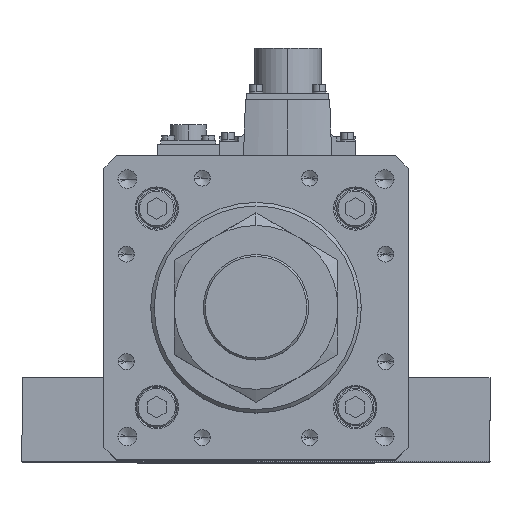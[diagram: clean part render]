
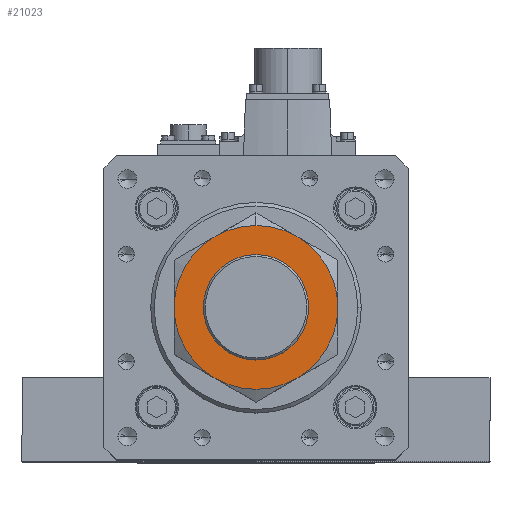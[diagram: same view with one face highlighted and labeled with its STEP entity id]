
A CAD part, top view. The second image highlights one B-rep face of the part: STEP entity #21023.
In plain terms, the highlighted planar face has unit normal (0, 0, 1).
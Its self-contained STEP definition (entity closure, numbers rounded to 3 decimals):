
#189 = CIRCLE ( 'NONE', #11442, 35. ) ;
#321 = AXIS2_PLACEMENT_3D ( 'NONE', #4866, #17471, #26781 ) ;
#404 = VERTEX_POINT ( 'NONE', #6828 ) ;
#786 = CARTESIAN_POINT ( 'NONE',  ( -35., 0., 27. ) ) ;
#865 = CARTESIAN_POINT ( 'NONE',  ( 0., 35., 27. ) ) ;
#1171 = CARTESIAN_POINT ( 'NONE',  ( 0., 0., 27. ) ) ;
#1385 = EDGE_CURVE ( 'NONE', #30541, #404, #1743, .T. ) ;
#1743 = CIRCLE ( 'NONE', #16719, 35. ) ;
#1779 = CIRCLE ( 'NONE', #12266, 35. ) ;
#2656 = PLANE ( 'NONE',  #20057 ) ;
#2766 = VERTEX_POINT ( 'NONE', #22512 ) ;
#2946 = DIRECTION ( 'NONE',  ( 0., 1., 0. ) ) ;
#3335 = CARTESIAN_POINT ( 'NONE',  ( -17.5, -30.311, 27. ) ) ;
#3467 = DIRECTION ( 'NONE',  ( 0., 0., -1. ) ) ;
#3871 = CARTESIAN_POINT ( 'NONE',  ( 0., 0., 27. ) ) ;
#3993 = FACE_OUTER_BOUND ( 'NONE', #10906, .T. ) ;
#4059 = EDGE_CURVE ( 'NONE', #9584, #8830, #26942, .T. ) ;
#4866 = CARTESIAN_POINT ( 'NONE',  ( 0., 0., 27. ) ) ;
#5087 = ORIENTED_EDGE ( 'NONE', *, *, #30251, .F. ) ;
#5654 = CARTESIAN_POINT ( 'NONE',  ( 0., 0., 27. ) ) ;
#6828 = CARTESIAN_POINT ( 'NONE',  ( 35., 0., 27. ) ) ;
#7205 = DIRECTION ( 'NONE',  ( 0., 0., 1. ) ) ;
#7459 = CARTESIAN_POINT ( 'NONE',  ( 22.5, 0., 27. ) ) ;
#7566 = DIRECTION ( 'NONE',  ( 0., 1., 0. ) ) ;
#7842 = EDGE_CURVE ( 'NONE', #10121, #28150, #35589, .T. ) ;
#8672 = CARTESIAN_POINT ( 'NONE',  ( 0., 0., 27. ) ) ;
#8830 = VERTEX_POINT ( 'NONE', #24652 ) ;
#9091 = CARTESIAN_POINT ( 'NONE',  ( 17.5, 30.311, 27. ) ) ;
#9584 = VERTEX_POINT ( 'NONE', #7459 ) ;
#9812 = ORIENTED_EDGE ( 'NONE', *, *, #23242, .F. ) ;
#10037 = ORIENTED_EDGE ( 'NONE', *, *, #15339, .F. ) ;
#10121 = VERTEX_POINT ( 'NONE', #3335 ) ;
#10365 = AXIS2_PLACEMENT_3D ( 'NONE', #3871, #26035, #10700 ) ;
#10700 = DIRECTION ( 'NONE',  ( 0., 1., 0. ) ) ;
#10906 = EDGE_LOOP ( 'NONE', ( #22088, #18243, #9812, #10037, #19923, #15439, #36630 ) ) ;
#11442 = AXIS2_PLACEMENT_3D ( 'NONE', #8672, #30542, #21371 ) ;
#11529 = CIRCLE ( 'NONE', #12286, 35. ) ;
#11702 = DIRECTION ( 'NONE',  ( 1., 0., 0. ) ) ;
#12266 = AXIS2_PLACEMENT_3D ( 'NONE', #38377, #13245, #37850 ) ;
#12273 = AXIS2_PLACEMENT_3D ( 'NONE', #1171, #29439, #7566 ) ;
#12286 = AXIS2_PLACEMENT_3D ( 'NONE', #35151, #35017, #26009 ) ;
#13169 = CARTESIAN_POINT ( 'NONE',  ( 0., 0., 27. ) ) ;
#13216 = DIRECTION ( 'NONE',  ( 1., 0., 0. ) ) ;
#13245 = DIRECTION ( 'NONE',  ( 0., 0., -1. ) ) ;
#14278 = EDGE_LOOP ( 'NONE', ( #5087, #29802 ) ) ;
#15339 = EDGE_CURVE ( 'NONE', #2766, #37333, #1779, .T. ) ;
#15439 = ORIENTED_EDGE ( 'NONE', *, *, #7842, .F. ) ;
#16204 = CIRCLE ( 'NONE', #12273, 35. ) ;
#16719 = AXIS2_PLACEMENT_3D ( 'NONE', #13169, #3467, #30945 ) ;
#17471 = DIRECTION ( 'NONE',  ( 0., 0., 1. ) ) ;
#18243 = ORIENTED_EDGE ( 'NONE', *, *, #1385, .F. ) ;
#18412 = DIRECTION ( 'NONE',  ( 0., 0., -1. ) ) ;
#19656 = CARTESIAN_POINT ( 'NONE',  ( 0., 0., 27. ) ) ;
#19923 = ORIENTED_EDGE ( 'NONE', *, *, #26682, .F. ) ;
#20057 = AXIS2_PLACEMENT_3D ( 'NONE', #5654, #24423, #11702 ) ;
#21023 = ADVANCED_FACE ( 'NONE', ( #3993, #29896 ), #2656, .T. ) ;
#21371 = DIRECTION ( 'NONE',  ( 0., 1., 0. ) ) ;
#21832 = EDGE_CURVE ( 'NONE', #404, #33399, #189, .T. ) ;
#22088 = ORIENTED_EDGE ( 'NONE', *, *, #21832, .F. ) ;
#22512 = CARTESIAN_POINT ( 'NONE',  ( -17.5, 30.311, 27. ) ) ;
#22895 = AXIS2_PLACEMENT_3D ( 'NONE', #19656, #7205, #13216 ) ;
#23242 = EDGE_CURVE ( 'NONE', #37333, #30541, #16204, .T. ) ;
#24423 = DIRECTION ( 'NONE',  ( 0., 0., 1. ) ) ;
#24652 = CARTESIAN_POINT ( 'NONE',  ( -22.5, 0., 27. ) ) ;
#25944 = EDGE_CURVE ( 'NONE', #33399, #10121, #33095, .T. ) ;
#26009 = DIRECTION ( 'NONE',  ( 0., 1., 0. ) ) ;
#26035 = DIRECTION ( 'NONE',  ( 0., 0., -1. ) ) ;
#26682 = EDGE_CURVE ( 'NONE', #28150, #2766, #11529, .T. ) ;
#26781 = DIRECTION ( 'NONE',  ( 1., 0., 0. ) ) ;
#26942 = CIRCLE ( 'NONE', #321, 22.5 ) ;
#28150 = VERTEX_POINT ( 'NONE', #786 ) ;
#29439 = DIRECTION ( 'NONE',  ( 0., 0., -1. ) ) ;
#29802 = ORIENTED_EDGE ( 'NONE', *, *, #4059, .F. ) ;
#29896 = FACE_BOUND ( 'NONE', #14278, .T. ) ;
#30251 = EDGE_CURVE ( 'NONE', #8830, #9584, #35500, .T. ) ;
#30541 = VERTEX_POINT ( 'NONE', #9091 ) ;
#30542 = DIRECTION ( 'NONE',  ( 0., 0., -1. ) ) ;
#30945 = DIRECTION ( 'NONE',  ( 0., 1., 0. ) ) ;
#33095 = CIRCLE ( 'NONE', #34264, 35. ) ;
#33399 = VERTEX_POINT ( 'NONE', #33760 ) ;
#33760 = CARTESIAN_POINT ( 'NONE',  ( 17.5, -30.311, 27. ) ) ;
#34264 = AXIS2_PLACEMENT_3D ( 'NONE', #37253, #18412, #2946 ) ;
#35017 = DIRECTION ( 'NONE',  ( 0., 0., -1. ) ) ;
#35151 = CARTESIAN_POINT ( 'NONE',  ( 0., 0., 27. ) ) ;
#35500 = CIRCLE ( 'NONE', #22895, 22.5 ) ;
#35589 = CIRCLE ( 'NONE', #10365, 35. ) ;
#36630 = ORIENTED_EDGE ( 'NONE', *, *, #25944, .F. ) ;
#37253 = CARTESIAN_POINT ( 'NONE',  ( 0., 0., 27. ) ) ;
#37333 = VERTEX_POINT ( 'NONE', #865 ) ;
#37850 = DIRECTION ( 'NONE',  ( 0., 1., 0. ) ) ;
#38377 = CARTESIAN_POINT ( 'NONE',  ( 0., 0., 27. ) ) ;
